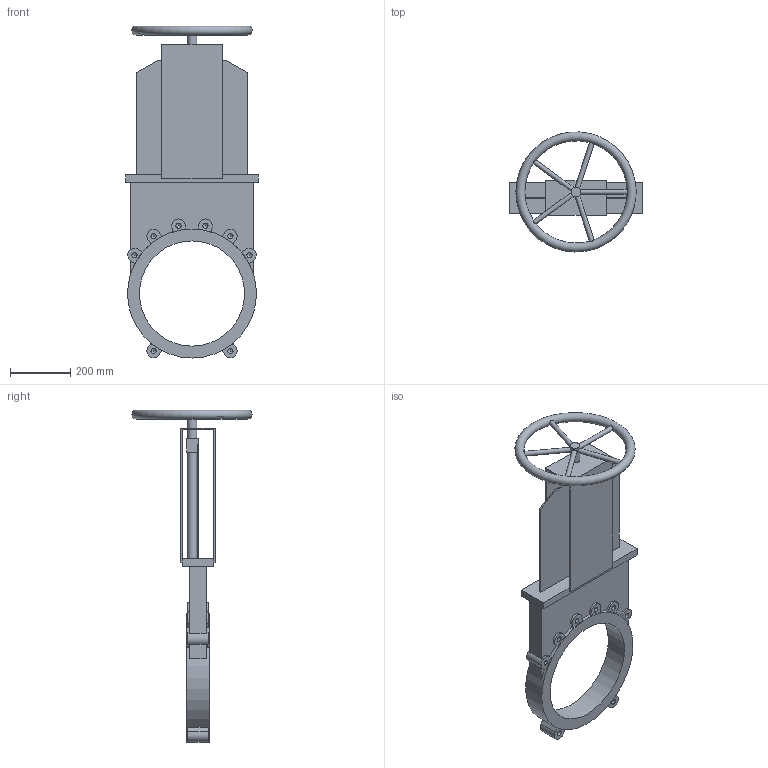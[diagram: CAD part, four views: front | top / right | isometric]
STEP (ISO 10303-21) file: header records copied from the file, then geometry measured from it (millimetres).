
FILE_DESCRIPTION(('STEP AP203'), '1');
FILE_NAME('Çàäâèæêà øèáåðíàÿ ìåæôëàíöåâàÿ K21GV DN350', '', ('UNSPECIFIED'), ('UNSPECIFIED'), 'ASCON STEP Converter 1.6', 'ASCON Math Kernel', '');
FILE_SCHEMA(('CONFIG_CONTROL_DESIGN'));
Length unit declared in the file: millimetre
Bounding box: 440 x 399.43 x 1104.5 mm (x, y, z)
Volume: 12571971.7 mm3; surface area: 1460026.3 mm2
Topology: 1 solids, 1 shells, 141 faces, 390 edges, 253 vertices
Faces by surface type: plane 86, cylinder 38, cone 16, torus 1
Full cylindrical faces by diameter (mm): 16 x5, 17.294 x16, 32 x3, 350 x1, 429 x1
Entity records: 6574 total; most frequent: CARTESIAN_POINT 2001, DIRECTION 706, ORIENTED_EDGE 656, EDGE_CURVE 328, AXIS2_PLACEMENT_3D 248, VERTEX_POINT 236, LINE 210, VECTOR 210
